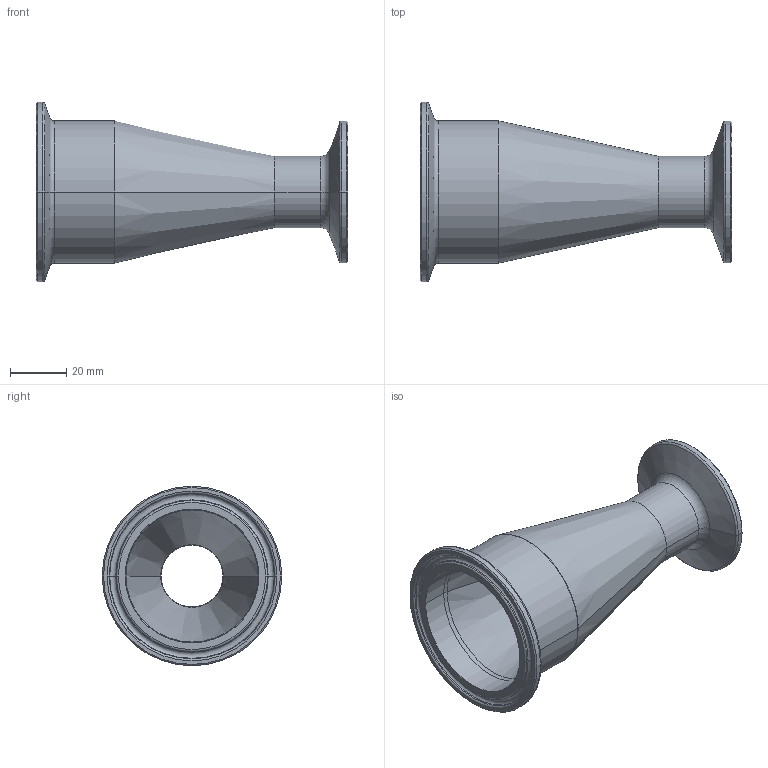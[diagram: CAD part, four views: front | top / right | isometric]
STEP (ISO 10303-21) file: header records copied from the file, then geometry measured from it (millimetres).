
FILE_DESCRIPTION (( 'STEP AP214' ), '1' );
FILE_NAME ('TEG31SCC6I2.0x1.0.STEP', '2016-05-29T14:31:10', ( 'eran' ), ( '' ), 'SwSTEP 2.0', 'SolidWorks 2016', '' );
FILE_SCHEMA (( 'AUTOMOTIVE_DESIGN' ));
Length unit declared in the file: millimetre
Products named in the file (1): TEG31SCC6I2.0x1.0
Bounding box: 111.12 x 64 x 64 mm (x, y, z)
Volume: 61916.5 mm3; surface area: 29916.8 mm2
Topology: 1 solids, 1 shells, 66 faces, 132 edges, 70 vertices
Faces by surface type: torus 26, cone 24, cylinder 12, plane 4
Entity records: 1738 total; most frequent: DIRECTION 362, CARTESIAN_POINT 269, ORIENTED_EDGE 264, AXIS2_PLACEMENT_3D 163, EDGE_CURVE 132, CIRCLE 96, EDGE_LOOP 70, VERTEX_POINT 70
